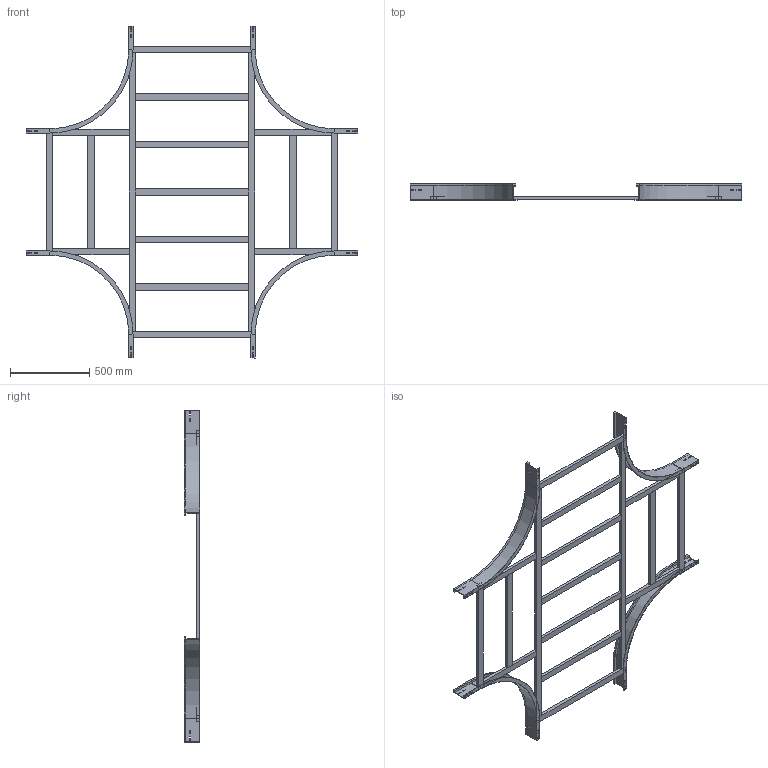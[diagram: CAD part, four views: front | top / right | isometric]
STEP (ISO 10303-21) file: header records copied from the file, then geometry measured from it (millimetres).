
FILE_DESCRIPTION (( 'STEP AP214' ), '1' );
FILE_NAME ('17B5D800.step', '2025-02-21T15:54:43', ( '' ), ( '' ), 'SwSTEP 2.0', 'SolidWorks 2023', '' );
FILE_SCHEMA (( 'AUTOMOTIVE_DESIGN' ));
Length unit declared in the file: millimetre
Products named in the file (7): 17B5D800; LONGH.INTERNO 90°_H100_R500; TRAVERSINO_VERT_R500; TRAVERSINO_LONG._R500+800; TRAVERSINO_COPPIA_800; TRAVERSINO_INTERMEDIO_R500+800; TRAVERSINO_800
Assembly tree (21 placements, depth 2):
  17B5D800
    LONGH.INTERNO 90°_H100_R500  x4
    TRAVERSINO_800  x4
    TRAVERSINO_LONG._R500+800  x2
    TRAVERSINO_INTERMEDIO_R500+800  x5
    TRAVERSINO_VERT_R500  x4
    TRAVERSINO_COPPIA_800  x2
Bounding box: 2100 x 100 x 2100 mm (x, y, z)
Volume: 12971353.6 mm3; surface area: 2925830.7 mm2
Topology: 21 solids, 21 shells, 334 faces, 812 edges, 520 vertices
Faces by surface type: plane 318, cylinder 16
Entity records: 2868 total; most frequent: CARTESIAN_POINT 460, DIRECTION 444, ORIENTED_EDGE 424, EDGE_CURVE 212, LINE 204, VECTOR 204, VERTEX_POINT 136, AXIS2_PLACEMENT_3D 120
